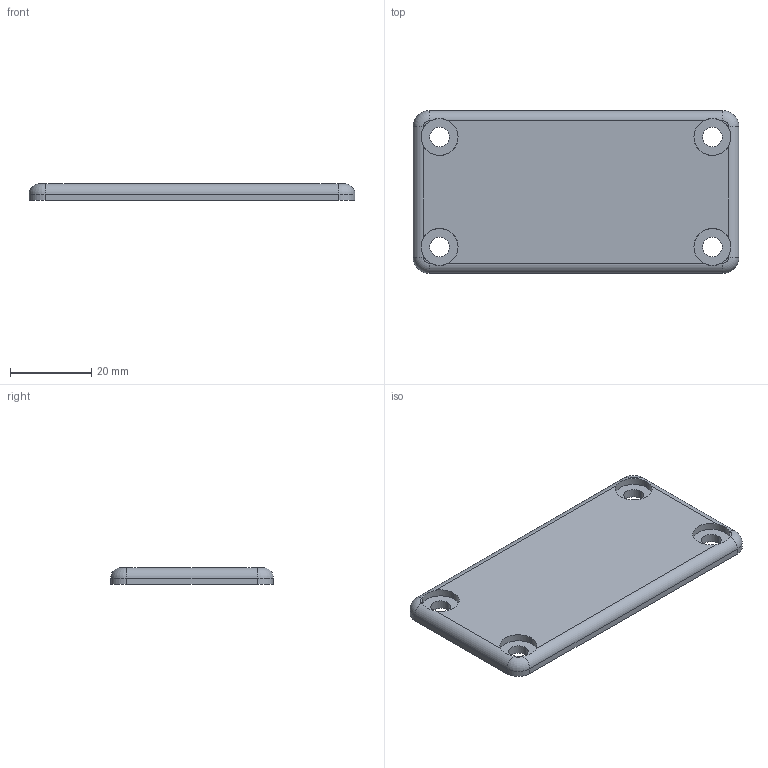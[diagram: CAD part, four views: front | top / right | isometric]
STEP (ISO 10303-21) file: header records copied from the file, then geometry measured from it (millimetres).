
FILE_DESCRIPTION(('STEP AP214'),'1');
FILE_NAME('cctmp_A53D75CC-13D8-4BB2-965A-DDFC89040AA4_2019_9_6_11_8_19_455..stp','2019-09-06T09:08:19',('item Industrietechnik GmbH'),('CADClick - www.CADClick.com'),'Spatial InterOp 3D',' ','unknown authorization');
FILE_SCHEMA(('AUTOMOTIVE_DESIGN'));
Length unit declared in the file: millimetre
Products named in the file (1): item_0019689_Conduit Cap 80x40
Bounding box: 80 x 40 x 4 mm (x, y, z)
Volume: 11809.7 mm3; surface area: 7244.7 mm2
Topology: 1 solids, 1 shells, 42 faces, 112 edges, 72 vertices
Faces by surface type: cylinder 24, plane 14, torus 4
Entity records: 1836 total; most frequent: CARTESIAN_POINT 383, DIRECTION 242, ORIENTED_EDGE 224, EDGE_CURVE 112, AXIS2_PLACEMENT_3D 99, VERTEX_POINT 72, CIRCLE 56, EDGE_LOOP 50
